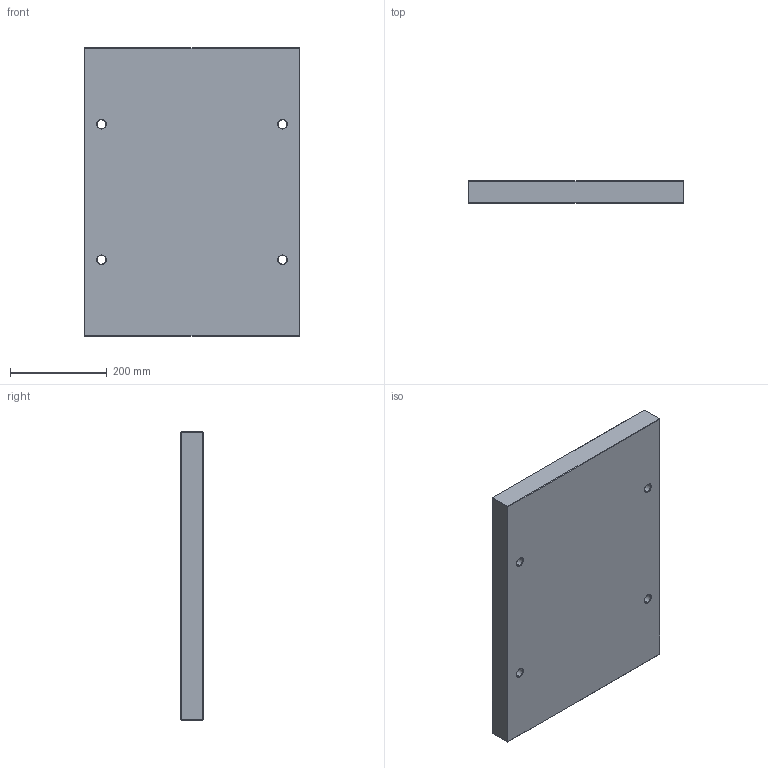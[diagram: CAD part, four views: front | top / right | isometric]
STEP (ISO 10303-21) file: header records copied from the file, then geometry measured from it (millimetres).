
FILE_DESCRIPTION (( 'STEP AP214' ), '1' );
FILE_NAME ('PBAV-446x446x46.STEP', '2020-03-18T17:23:31', ( 'August' ), ( '' ), 'SwSTEP 2.0', 'SolidWorks 2018', '' );
FILE_SCHEMA (( 'AUTOMOTIVE_DESIGN' ));
Length unit declared in the file: millimetre
Products named in the file (1): PBAV-446x446x46
Bounding box: 446 x 46 x 596 mm (x, y, z)
Volume: 12158353.1 mm3; surface area: 634808.9 mm2
Topology: 1 solids, 1 shells, 62 faces, 128 edges, 72 vertices
Faces by surface type: plane 30, cone 16, cylinder 16
Entity records: 1650 total; most frequent: DIRECTION 302, CARTESIAN_POINT 263, ORIENTED_EDGE 256, EDGE_CURVE 128, AXIS2_PLACEMENT_3D 111, VECTOR 80, LINE 80, EDGE_LOOP 74
